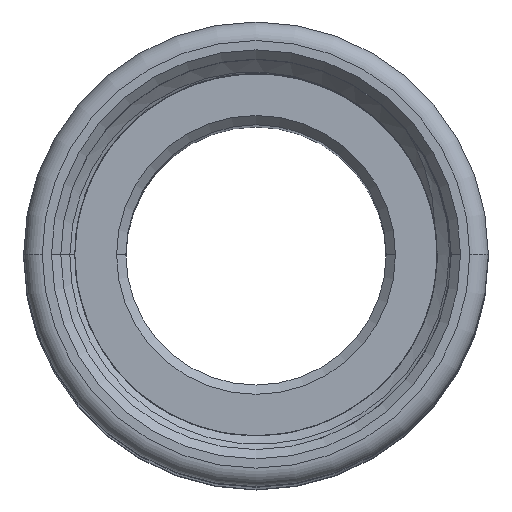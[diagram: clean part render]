
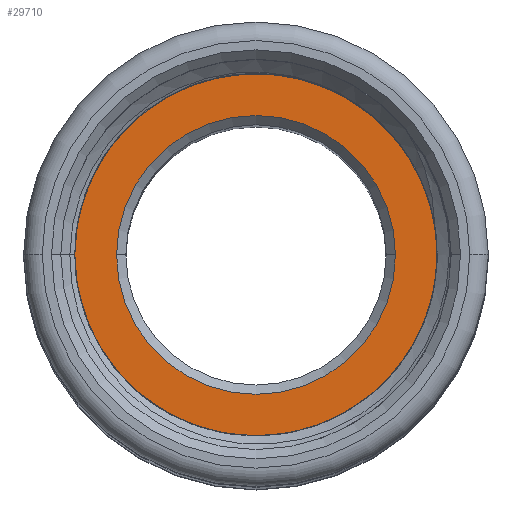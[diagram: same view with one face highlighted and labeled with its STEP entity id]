
A CAD part, top view. The second image highlights one B-rep face of the part: STEP entity #29710.
In plain terms, the highlighted planar face has unit normal (0, 0, 1).
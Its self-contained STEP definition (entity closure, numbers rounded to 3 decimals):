
#3933=CARTESIAN_POINT('',(0.,0.,84.5));
#3934=DIRECTION('',(0.,0.,-1.));
#3935=DIRECTION('',(1.,0.,0.));
#3936=AXIS2_PLACEMENT_3D('',#3933,#3934,#3935);
#3941=CARTESIAN_POINT('',(0.,0.,84.5));
#3942=DIRECTION('',(0.,0.,1.));
#3943=DIRECTION('',(1.,0.,0.));
#3944=AXIS2_PLACEMENT_3D('',#3941,#3942,#3943);
#3949=CARTESIAN_POINT('',(0.,0.,84.5));
#3950=DIRECTION('',(0.,0.,-1.));
#3951=DIRECTION('',(1.,0.,0.));
#3952=AXIS2_PLACEMENT_3D('',#3949,#3950,#3951);
#3957=CARTESIAN_POINT('',(0.,0.,84.5));
#3958=DIRECTION('',(0.,0.,-1.));
#3959=DIRECTION('',(-1.,0.,0.));
#3960=AXIS2_PLACEMENT_3D('',#3957,#3958,#3959);
#20901=CARTESIAN_POINT('',(7.5,0.,84.5));
#20902=CARTESIAN_POINT('',(-7.5,0.,84.5));
#20903=VERTEX_POINT('',#20901);
#20904=VERTEX_POINT('',#20902);
#20933=CARTESIAN_POINT('',(10.2,0.,84.5));
#20934=VERTEX_POINT('',#20933);
#20937=CARTESIAN_POINT('',(-10.2,0.,84.5));
#20938=VERTEX_POINT('',#20937);
#29694=CARTESIAN_POINT('',(0.,0.,84.5));
#29695=DIRECTION('',(0.,0.,1.));
#29696=DIRECTION('',(1.,0.,0.));
#29697=AXIS2_PLACEMENT_3D('',#29694,#29695,#29696);
#29698=PLANE('',#29697);
#29700=ORIENTED_EDGE('',*,*,#29699,.T.);
#29702=ORIENTED_EDGE('',*,*,#29701,.F.);
#29703=EDGE_LOOP('',(#29700,#29702));
#29704=FACE_OUTER_BOUND('',#29703,.F.);
#29706=ORIENTED_EDGE('',*,*,#29705,.F.);
#29707=ORIENTED_EDGE('',*,*,#29684,.F.);
#29708=EDGE_LOOP('',(#29706,#29707));
#29709=FACE_BOUND('',#29708,.F.);
#3937=CIRCLE('',#3936,10.2);
#3945=CIRCLE('',#3944,10.2);
#3953=CIRCLE('',#3952,7.5);
#3961=CIRCLE('',#3960,7.5);
#29684=EDGE_CURVE('',#20904,#20903,#3961,.T.);
#29699=EDGE_CURVE('',#20934,#20938,#3937,.T.);
#29701=EDGE_CURVE('',#20934,#20938,#3945,.T.);
#29705=EDGE_CURVE('',#20903,#20904,#3953,.T.);
#29710=ADVANCED_FACE('',(#29704,#29709),#29698,.T.);
